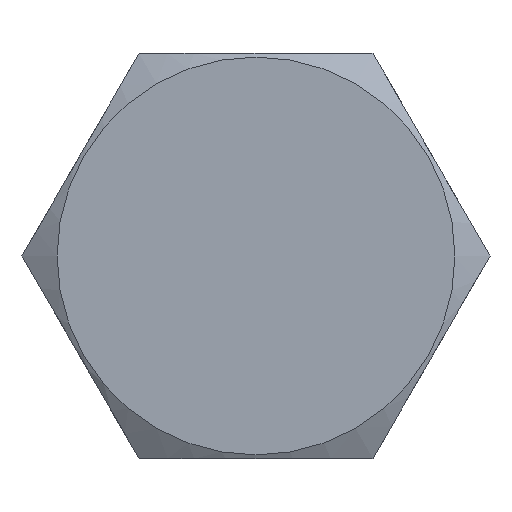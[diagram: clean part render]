
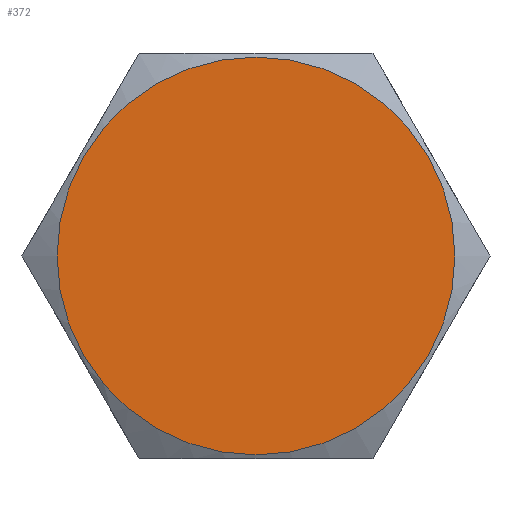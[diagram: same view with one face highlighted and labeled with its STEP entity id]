
A CAD part, front view. The second image highlights one B-rep face of the part: STEP entity #372.
In plain terms, the highlighted planar face has unit normal (0, -1, 0).
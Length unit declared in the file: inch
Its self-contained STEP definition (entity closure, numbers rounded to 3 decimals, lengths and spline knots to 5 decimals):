
#41=PLANE('',#431);
#97=FACE_OUTER_BOUND('',#122,.T.);
#122=EDGE_LOOP('',(#335));
#144=CIRCLE('',#430,0.36813);
#183=VERTEX_POINT('',#685);
#235=EDGE_CURVE('',#183,#183,#144,.T.);
#335=ORIENTED_EDGE('',*,*,#235,.F.);
#372=ADVANCED_FACE('',(#97),#41,.T.);
#430=AXIS2_PLACEMENT_3D('',#686,#531,#532);
#431=AXIS2_PLACEMENT_3D('',#688,#534,#535);
#531=DIRECTION('center_axis',(0.,1.,0.));
#532=DIRECTION('ref_axis',(0.,0.,1.));
#534=DIRECTION('center_axis',(0.,-1.,0.));
#535=DIRECTION('ref_axis',(0.,0.,-1.));
#685=CARTESIAN_POINT('',(0.,0.,-0.36813));
#686=CARTESIAN_POINT('Origin',(0.,0.,0.));
#688=CARTESIAN_POINT('Origin',(0.,0.,0.));
